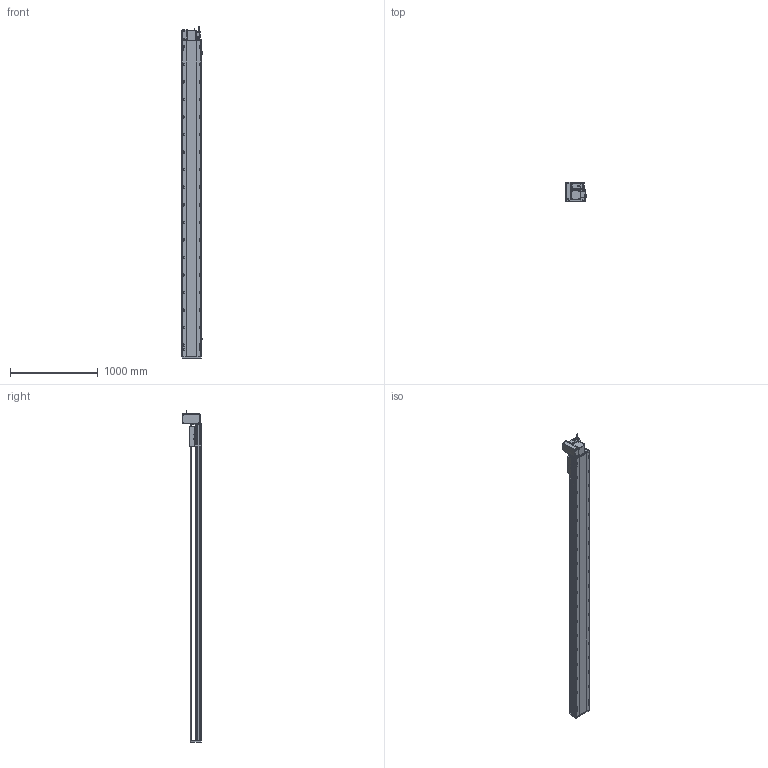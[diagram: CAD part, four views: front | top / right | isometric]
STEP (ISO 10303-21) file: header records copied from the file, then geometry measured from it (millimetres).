
FILE_DESCRIPTION (( 'STEP AP214' ), '1' );
FILE_NAME ('RTB22S-XX-3250-LW-M75-C4.STEP', '2025-12-12T07:07:04', ( '' ), ( '' ), 'SwSTEP 2.0', 'SolidWorks 2018', '' );
FILE_SCHEMA (( 'AUTOMOTIVE_DESIGN' ));
Length unit declared in the file: millimetre
Products named in the file (14): RTB22S-GY-001耜裔^RTB22S-XX-XX-LW-M75-C4; RTB22S-GY-005P^RTB22S-LW-々湍釱蚾饜_RTB22S-XX-XX-LW-M75-C4; RTB22S-GY-014--々湍釱^RTB22S-LW-々湍釱蚾饜_RTB22S-XX-XX-LW-M75-C4; RTB22S-GY-018P^RTB22S-LW-々湍釱蚾饜_RTB22S-XX-XX-LW-M75-C4; RTB22S-GY-007奻裔^RTB22S-XX-XX-LW-M75-C4; RTB22S-GY-017P^RTB22S-LW-々湍釱蚾饜_RTB22S-XX-XX-LW-M75-C4; RTB22S-L-011菁釱^RTB22S-XX-XX-LW-M75-C4; OMRON EE-SX672 传感器^RTB22S-XX-XX-LW-M75-C4; 750W萇儂^RTB22S-XX-XX-LW-M75-C4; RTB22S-LW-々湍釱蚾饜^RTB22S-XX-XX-LW-M75-C4; RTB22S-XX-3250-LW-M75-C4; RTH22-GY-013外置感应片^RTB22S-XX-XX-LW-M75-C4; RTB22S-GY-008-M75--萇儂啣^RTB22S-LW-々湍釱蚾饜_RTB22S-XX-XX-LW-M75-C4; RTB22S-L-004賑釱^RTB22S-XX-XX-LW-M75-C4
Assembly tree (16 placements, depth 3):
  RTB22S-XX-3250-LW-M75-C4
    RTB22S-L-011菁釱^RTB22S-XX-XX-LW-M75-C4
    RTB22S-GY-001耜裔^RTB22S-XX-XX-LW-M75-C4
    750W萇儂^RTB22S-XX-XX-LW-M75-C4
    RTB22S-GY-007奻裔^RTB22S-XX-XX-LW-M75-C4
    RTB22S-L-004賑釱^RTB22S-XX-XX-LW-M75-C4
    RTH22-GY-013外置感应片^RTB22S-XX-XX-LW-M75-C4
    OMRON EE-SX672 传感器^RTB22S-XX-XX-LW-M75-C4  x3
    RTB22S-LW-々湍釱蚾饜^RTB22S-XX-XX-LW-M75-C4
      RTB22S-GY-014--々湍釱^RTB22S-LW-々湍釱蚾饜_RTB22S-XX-XX-LW-M75-C4
      RTB22S-GY-017P^RTB22S-LW-々湍釱蚾饜_RTB22S-XX-XX-LW-M75-C4  x2
      RTB22S-GY-005P^RTB22S-LW-々湍釱蚾饜_RTB22S-XX-XX-LW-M75-C4
      RTB22S-GY-008-M75--萇儂啣^RTB22S-LW-々湍釱蚾饜_RTB22S-XX-XX-LW-M75-C4
      RTB22S-GY-018P^RTB22S-LW-々湍釱蚾饜_RTB22S-XX-XX-LW-M75-C4
Bounding box: 238.5 x 215.5 x 3782.2 mm (x, y, z)
Volume: 47497449.8 mm3; surface area: 4838871 mm2
Topology: 15 solids, 15 shells, 2181 faces, 5936 edges, 3782 vertices
Faces by surface type: plane 937, cylinder 754, bspline 296, cone 182, sphere 8, torus 4
Entity records: 60006 total; most frequent: CARTESIAN_POINT 16800, ORIENTED_EDGE 8572, DIRECTION 8440, EDGE_CURVE 4286, AXIS2_PLACEMENT_3D 3050, VERTEX_POINT 2786, VECTOR 2340, LINE 2340
